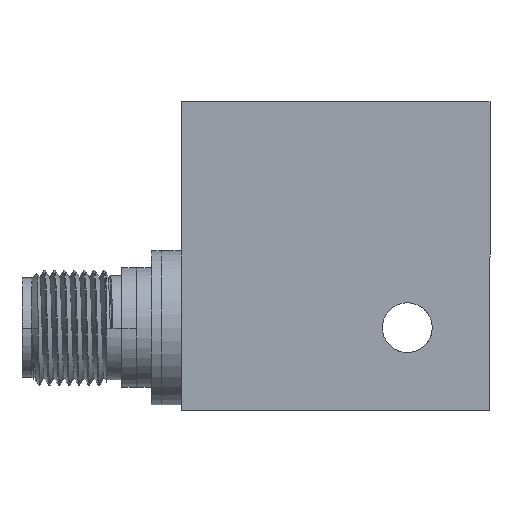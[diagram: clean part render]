
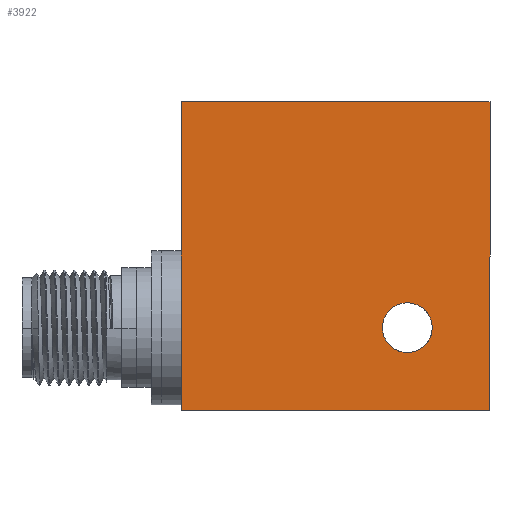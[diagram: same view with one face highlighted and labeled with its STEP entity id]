
A CAD part, front view. The second image highlights one B-rep face of the part: STEP entity #3922.
In plain terms, the highlighted planar face has unit normal (0, -1, 0).
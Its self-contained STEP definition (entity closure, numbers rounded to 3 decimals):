
#152 = VERTEX_POINT ( 'NONE', #801 ) ;
#236 = DIRECTION ( 'NONE',  ( -1., 0., 0. ) ) ;
#275 = ORIENTED_EDGE ( 'NONE', *, *, #3544, .F. ) ;
#288 = VERTEX_POINT ( 'NONE', #3242 ) ;
#422 = FACE_BOUND ( 'NONE', #3784, .T. ) ;
#468 = CARTESIAN_POINT ( 'NONE',  ( 7.2, 0., -7.2 ) ) ;
#550 = CARTESIAN_POINT ( 'NONE',  ( -15.5, 0., 15.5 ) ) ;
#581 = VECTOR ( 'NONE', #3383, 1000. ) ;
#712 = VECTOR ( 'NONE', #236, 1000. ) ;
#720 = LINE ( 'NONE', #3002, #1392 ) ;
#801 = CARTESIAN_POINT ( 'NONE',  ( 7.2, 0., -9.7 ) ) ;
#966 = AXIS2_PLACEMENT_3D ( 'NONE', #468, #2660, #4531 ) ;
#1072 = AXIS2_PLACEMENT_3D ( 'NONE', #1863, #1080, #4407 ) ;
#1080 = DIRECTION ( 'NONE',  ( 0., 1., 0. ) ) ;
#1215 = ORIENTED_EDGE ( 'NONE', *, *, #3945, .T. ) ;
#1380 = VERTEX_POINT ( 'NONE', #2186 ) ;
#1392 = VECTOR ( 'NONE', #3741, 1000. ) ;
#1448 = EDGE_CURVE ( 'NONE', #1953, #152, #2155, .T. ) ;
#1673 = LINE ( 'NONE', #550, #3847 ) ;
#1863 = CARTESIAN_POINT ( 'NONE',  ( 7.2, 0., -7.2 ) ) ;
#1897 = ORIENTED_EDGE ( 'NONE', *, *, #3691, .F. ) ;
#1953 = VERTEX_POINT ( 'NONE', #2593 ) ;
#2038 = CARTESIAN_POINT ( 'NONE',  ( -15.5, 0., -15.5 ) ) ;
#2077 = CIRCLE ( 'NONE', #966, 2.5 ) ;
#2104 = EDGE_CURVE ( 'NONE', #288, #3677, #720, .T. ) ;
#2155 = CIRCLE ( 'NONE', #1072, 2.5 ) ;
#2186 = CARTESIAN_POINT ( 'NONE',  ( -15.5, 0., -15.5 ) ) ;
#2308 = PLANE ( 'NONE',  #4014 ) ;
#2403 = CARTESIAN_POINT ( 'NONE',  ( 15.5, 0., -15.5 ) ) ;
#2564 = ORIENTED_EDGE ( 'NONE', *, *, #2104, .F. ) ;
#2593 = CARTESIAN_POINT ( 'NONE',  ( 7.2, 0., -4.7 ) ) ;
#2660 = DIRECTION ( 'NONE',  ( 0., 1., 0. ) ) ;
#2664 = LINE ( 'NONE', #2038, #712 ) ;
#2676 = CARTESIAN_POINT ( 'NONE',  ( 0., 0., 0. ) ) ;
#2689 = DIRECTION ( 'NONE',  ( 0., 1., 0. ) ) ;
#2749 = EDGE_LOOP ( 'NONE', ( #2564, #275, #4005, #1897 ) ) ;
#2751 = DIRECTION ( 'NONE',  ( 1., 0., 0. ) ) ;
#3002 = CARTESIAN_POINT ( 'NONE',  ( 15.5, 0., -15.5 ) ) ;
#3026 = LINE ( 'NONE', #3776, #581 ) ;
#3193 = FACE_OUTER_BOUND ( 'NONE', #2749, .T. ) ;
#3242 = CARTESIAN_POINT ( 'NONE',  ( 15.5, 0., 15.5 ) ) ;
#3369 = EDGE_CURVE ( 'NONE', #1380, #4406, #3026, .T. ) ;
#3383 = DIRECTION ( 'NONE',  ( 0., 0., 1. ) ) ;
#3407 = DIRECTION ( 'NONE',  ( 0., 0., 1. ) ) ;
#3544 = EDGE_CURVE ( 'NONE', #4406, #288, #1673, .T. ) ;
#3677 = VERTEX_POINT ( 'NONE', #2403 ) ;
#3691 = EDGE_CURVE ( 'NONE', #3677, #1380, #2664, .T. ) ;
#3741 = DIRECTION ( 'NONE',  ( 0., 0., -1. ) ) ;
#3776 = CARTESIAN_POINT ( 'NONE',  ( -15.5, 0., -15.5 ) ) ;
#3784 = EDGE_LOOP ( 'NONE', ( #4642, #1215 ) ) ;
#3847 = VECTOR ( 'NONE', #2751, 1000. ) ;
#3922 = ADVANCED_FACE ( 'NONE', ( #422, #3193 ), #2308, .F. ) ;
#3945 = EDGE_CURVE ( 'NONE', #152, #1953, #2077, .T. ) ;
#4005 = ORIENTED_EDGE ( 'NONE', *, *, #3369, .F. ) ;
#4014 = AXIS2_PLACEMENT_3D ( 'NONE', #2676, #2689, #3407 ) ;
#4406 = VERTEX_POINT ( 'NONE', #4765 ) ;
#4407 = DIRECTION ( 'NONE',  ( 0., 0., 1. ) ) ;
#4531 = DIRECTION ( 'NONE',  ( 0., 0., 1. ) ) ;
#4642 = ORIENTED_EDGE ( 'NONE', *, *, #1448, .T. ) ;
#4765 = CARTESIAN_POINT ( 'NONE',  ( -15.5, 0., 15.5 ) ) ;
